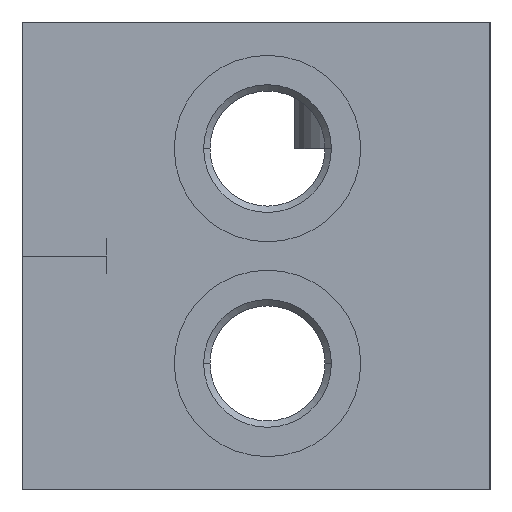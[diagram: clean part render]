
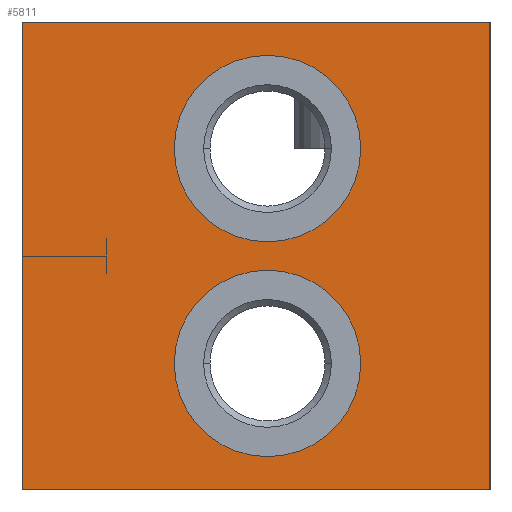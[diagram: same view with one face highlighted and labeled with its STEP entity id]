
A CAD part, left-side view. The second image highlights one B-rep face of the part: STEP entity #5811.
In plain terms, the highlighted planar face has unit normal (-1, 0, 0).
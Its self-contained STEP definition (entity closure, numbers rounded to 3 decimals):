
#25=DIRECTION('',(0.,-1.,0.));
#26=VECTOR('',#25,61.);
#27=CARTESIAN_POINT('',(0.,61.,0.));
#28=LINE('',#27,#26);
#157=DIRECTION('',(0.,0.,-1.));
#158=VECTOR('',#157,61.);
#159=CARTESIAN_POINT('',(0.,0.,0.));
#160=LINE('',#159,#158);
#1069=DIRECTION('',(0.,0.,-1.));
#1070=VECTOR('',#1069,61.);
#1071=CARTESIAN_POINT('',(0.,61.,0.));
#1072=LINE('',#1071,#1070);
#1073=CARTESIAN_POINT('',(0.,29.,-44.5));
#1074=DIRECTION('',(1.,0.,0.));
#1075=DIRECTION('',(0.,-1.,0.));
#1076=AXIS2_PLACEMENT_3D('',#1073,#1074,#1075);
#1078=CARTESIAN_POINT('',(0.,29.,-44.5));
#1079=DIRECTION('',(1.,0.,0.));
#1080=DIRECTION('',(0.,1.,0.));
#1081=AXIS2_PLACEMENT_3D('',#1078,#1079,#1080);
#1083=CARTESIAN_POINT('',(0.,29.,-16.5));
#1084=DIRECTION('',(1.,0.,0.));
#1085=DIRECTION('',(0.,-1.,0.));
#1086=AXIS2_PLACEMENT_3D('',#1083,#1084,#1085);
#1088=CARTESIAN_POINT('',(0.,29.,-16.5));
#1089=DIRECTION('',(1.,0.,0.));
#1090=DIRECTION('',(0.,1.,0.));
#1091=AXIS2_PLACEMENT_3D('',#1088,#1089,#1090);
#1105=DIRECTION('',(0.,-1.,0.));
#1106=VECTOR('',#1105,61.);
#1107=CARTESIAN_POINT('',(0.,61.,-61.));
#1108=LINE('',#1107,#1106);
#4474=CARTESIAN_POINT('',(0.,0.,0.));
#4476=VERTEX_POINT('',#4474);
#4480=CARTESIAN_POINT('',(0.,61.,0.));
#4481=VERTEX_POINT('',#4480);
#4482=CARTESIAN_POINT('',(0.,0.,-61.));
#4484=VERTEX_POINT('',#4482);
#4488=CARTESIAN_POINT('',(0.,61.,-61.));
#4489=VERTEX_POINT('',#4488);
#4502=CARTESIAN_POINT('',(0.,16.85,-44.5));
#4503=CARTESIAN_POINT('',(0.,41.15,-44.5));
#4504=VERTEX_POINT('',#4502);
#4505=VERTEX_POINT('',#4503);
#4518=CARTESIAN_POINT('',(0.,16.85,-16.5));
#4519=CARTESIAN_POINT('',(0.,41.15,-16.5));
#4520=VERTEX_POINT('',#4518);
#4521=VERTEX_POINT('',#4519);
#5787=CARTESIAN_POINT('',(0.,61.,0.));
#5788=DIRECTION('',(-1.,0.,0.));
#5789=DIRECTION('',(0.,-1.,0.));
#5790=AXIS2_PLACEMENT_3D('',#5787,#5788,#5789);
#5791=PLANE('',#5790);
#5792=ORIENTED_EDGE('',*,*,#5357,.T.);
#5793=ORIENTED_EDGE('',*,*,#5448,.T.);
#5795=ORIENTED_EDGE('',*,*,#5794,.F.);
#5796=ORIENTED_EDGE('',*,*,#5527,.F.);
#5797=EDGE_LOOP('',(#5792,#5793,#5795,#5796));
#5798=FACE_OUTER_BOUND('',#5797,.F.);
#5800=ORIENTED_EDGE('',*,*,#5799,.F.);
#5802=ORIENTED_EDGE('',*,*,#5801,.F.);
#5803=EDGE_LOOP('',(#5800,#5802));
#5804=FACE_BOUND('',#5803,.F.);
#5806=ORIENTED_EDGE('',*,*,#5805,.F.);
#5808=ORIENTED_EDGE('',*,*,#5807,.F.);
#5809=EDGE_LOOP('',(#5806,#5808));
#5810=FACE_BOUND('',#5809,.F.);
#1077=CIRCLE('',#1076,12.15);
#1082=CIRCLE('',#1081,12.15);
#1087=CIRCLE('',#1086,12.15);
#1092=CIRCLE('',#1091,12.15);
#5357=EDGE_CURVE('',#4481,#4476,#28,.T.);
#5448=EDGE_CURVE('',#4476,#4484,#160,.T.);
#5527=EDGE_CURVE('',#4481,#4489,#1072,.T.);
#5794=EDGE_CURVE('',#4489,#4484,#1108,.T.);
#5799=EDGE_CURVE('',#4504,#4505,#1077,.T.);
#5801=EDGE_CURVE('',#4505,#4504,#1082,.T.);
#5805=EDGE_CURVE('',#4520,#4521,#1087,.T.);
#5807=EDGE_CURVE('',#4521,#4520,#1092,.T.);
#5811=ADVANCED_FACE('',(#5798,#5804,#5810),#5791,.T.);
